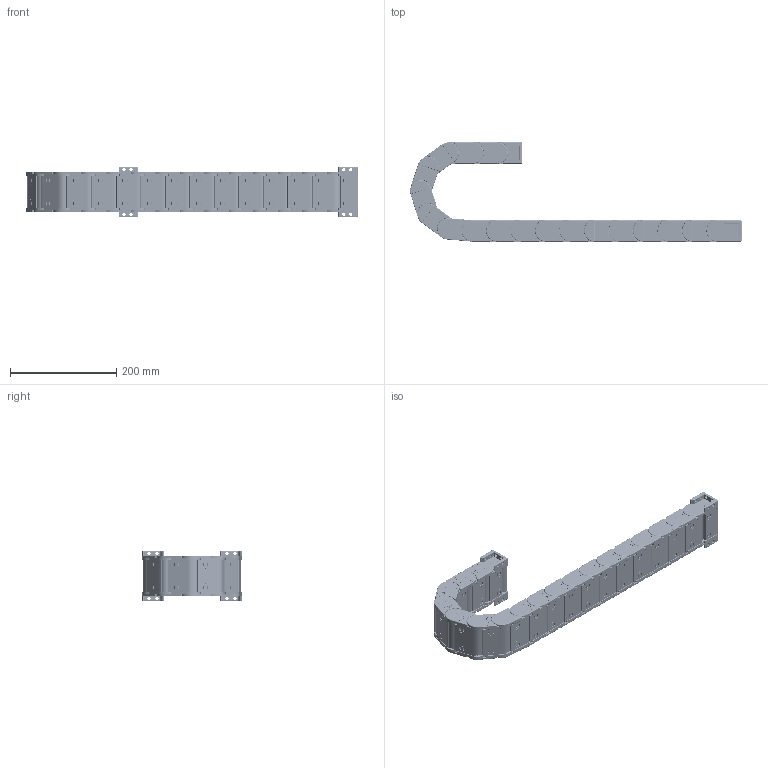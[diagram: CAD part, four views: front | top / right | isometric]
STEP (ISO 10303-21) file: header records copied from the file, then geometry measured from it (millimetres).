
FILE_DESCRIPTION (( 'STEP AP203' ), '1' );
FILE_NAME ('J25F.1.60S猾敕宒--俋耜羲.STEP', '2017-12-16T03:18:13', ( '' ), ( '' ), 'SwSTEP 2.0', 'SolidWorks 2016', '' );
FILE_SCHEMA (( 'CONFIG_CONTROL_DESIGN' ));
Length unit declared in the file: millimetre
Products named in the file (10): J25F.1.60S猾敕宒--俋耜羲; N25-囀猾敕え; N25-俋猾敕え.2; N25X57-增强3D-1 - 副本; 25-崝Ч源諉芛囀; 25-崝Ч翋极1; N25X75-囀諉芛 - 萵掛; 25-崝Ч翋极2; 25-崝Ч源諉芛俋; N25X75-俋諉芛 - 萵掛
Assembly tree (31 placements, depth 3):
  J25F.1.60S猾敕宒--俋耜羲
    N25X57-增强3D-1 - 副本  x17
      25-崝Ч翋极1
      25-崝Ч翋极2
      N25-囀猾敕え
      N25-俋猾敕え.2
    N25X75-囀諉芛 - 萵掛
      25-崝Ч源諉芛囀  x2
      N25-囀猾敕え  x2
    N25X75-俋諉芛 - 萵掛
      25-崝Ч源諉芛俋  x2
      N25-囀猾敕え  x2
Bounding box: 623.94 x 186.39 x 94 mm (x, y, z)
Volume: 888831 mm3; surface area: 655201.3 mm2
Topology: 76 solids, 76 shells, 19781 faces, 53747 edges, 34150 vertices
Faces by surface type: plane 8811, cylinder 5690, bspline 3842, torus 1360, sphere 78
Entity records: 49575 total; most frequent: CARTESIAN_POINT 17331, ORIENTED_EDGE 6766, DIRECTION 5911, EDGE_CURVE 3383, VERTEX_POINT 2166, AXIS2_PLACEMENT_3D 1973, LINE 1965, VECTOR 1965
